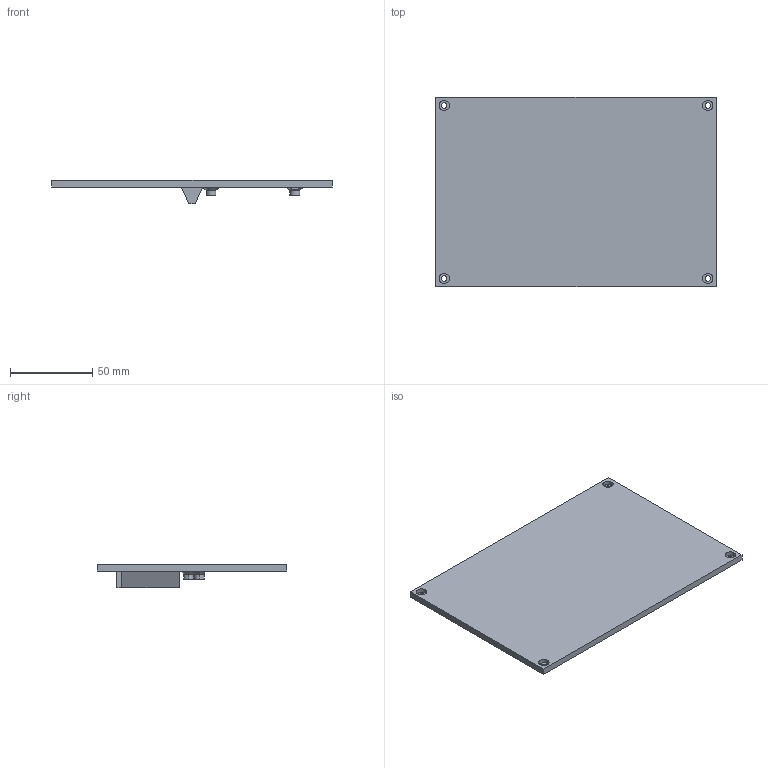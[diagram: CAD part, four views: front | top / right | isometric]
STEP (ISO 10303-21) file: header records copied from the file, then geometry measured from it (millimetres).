
FILE_DESCRIPTION (( 'STEP AP203' ), '1' );
FILE_NAME ('BASE.STEP', '2021-09-09T14:17:15', ( '' ), ( '' ), 'SwSTEP 2.0', 'SolidWorks 2020', '' );
FILE_SCHEMA (( 'CONFIG_CONTROL_DESIGN' ));
Length unit declared in the file: millimetre
Products named in the file (1): BASE
Bounding box: 170 x 115 x 14 mm (x, y, z)
Volume: 80577.1 mm3; surface area: 43671.7 mm2
Topology: 1 solids, 1 shells, 86 faces, 195 edges, 127 vertices
Faces by surface type: plane 46, cylinder 32, cone 8
Entity records: 2534 total; most frequent: DIRECTION 439, CARTESIAN_POINT 436, ORIENTED_EDGE 390, EDGE_CURVE 195, AXIS2_PLACEMENT_3D 160, VERTEX_POINT 127, LINE 119, VECTOR 119
